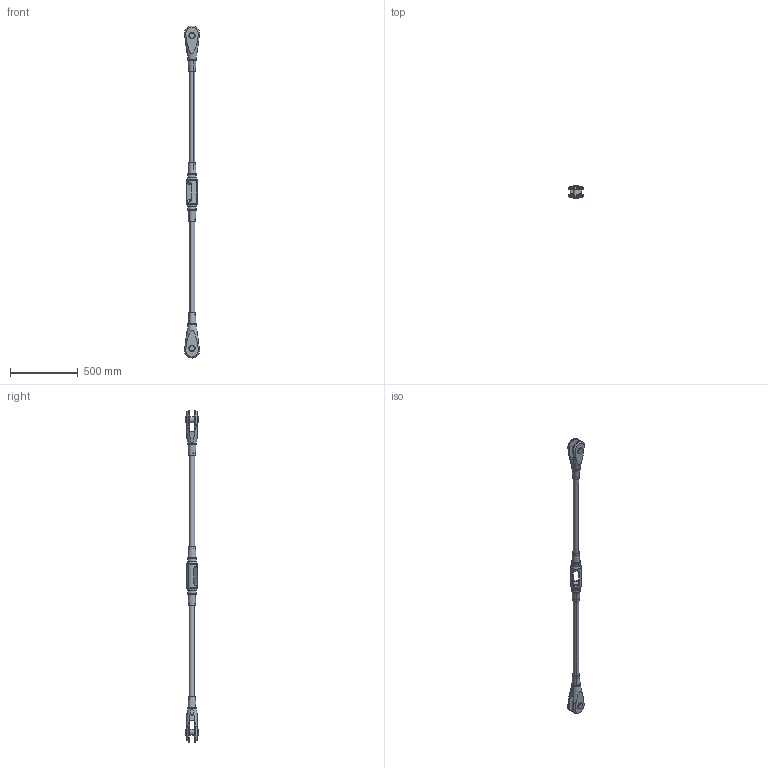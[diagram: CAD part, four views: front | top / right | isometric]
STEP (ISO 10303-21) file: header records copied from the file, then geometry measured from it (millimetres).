
FILE_DESCRIPTION (( 'STEP AP203' ), '1' );
FILE_NAME ('M42 G+AB+K.STEP', '2018-02-14T11:51:18', ( 'install' ), ( 'Hewlett-Packard Company' ), 'SwSTEP 2.0', 'SolidWorks 2017', '' );
FILE_SCHEMA (( 'CONFIG_CONTROL_DESIGN' ));
Length unit declared in the file: millimetre
Products named in the file (6): M42 G+AB+K; Gabelkopf Kunde_M42; Abdeckhülse_generisch_M42; Kreuzmuffe_M42; Zugstab_M42; Bolzen SicherungsringVarB_generisch_M42
Assembly tree (11 placements, depth 2):
  M42 G+AB+K
    Gabelkopf Kunde_M42  x2
    Abdeckhülse_generisch_M42  x4
    Kreuzmuffe_M42
    Zugstab_M42  x2
    Bolzen SicherungsringVarB_generisch_M42  x2
Bounding box: 111.94 x 96.8 x 2449 mm (x, y, z)
Volume: 5482604 mm3; surface area: 733174.7 mm2
Topology: 11 solids, 11 shells, 368 faces, 931 edges, 575 vertices
Faces by surface type: cylinder 198, plane 77, cone 54, torus 25, bspline 14
Entity records: 13864 total; most frequent: CARTESIAN_POINT 8574, ORIENTED_EDGE 1028, DIRECTION 878, EDGE_CURVE 514, AXIS2_PLACEMENT_3D 359, VERTEX_POINT 319, EDGE_LOOP 221, FACE_OUTER_BOUND 200
